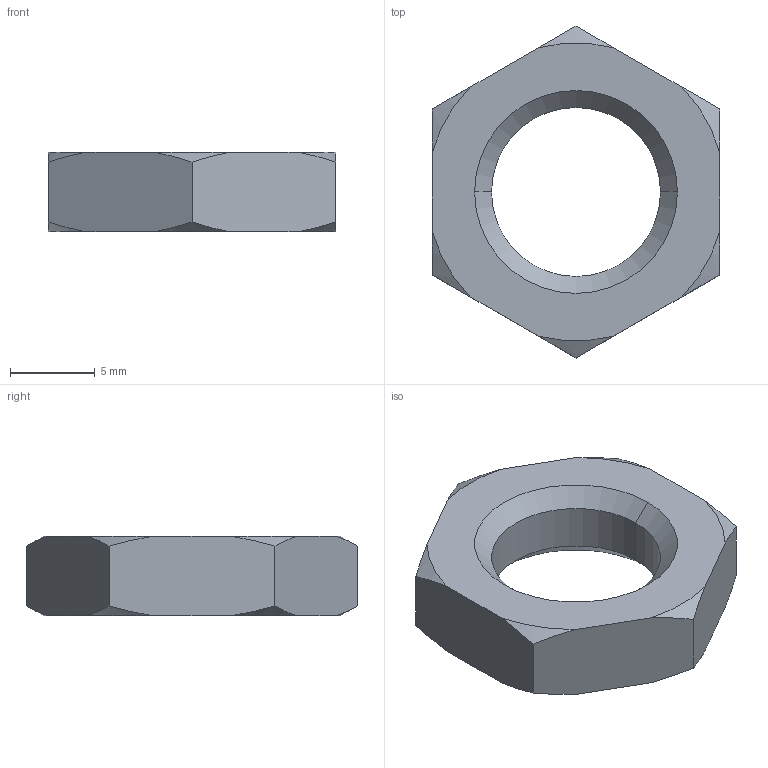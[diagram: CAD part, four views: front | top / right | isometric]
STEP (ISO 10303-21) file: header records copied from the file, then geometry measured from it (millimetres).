
FILE_DESCRIPTION (( 'STEP AP203' ), '1' );
FILE_NAME ('P0306.100-100-A4.step', '2018-12-15T15:00:15', ( '' ), ( '' ), 'SwSTEP 2.0', 'SolidWorks 2017', '' );
FILE_SCHEMA (( 'CONFIG_CONTROL_DESIGN' ));
Length unit declared in the file: millimetre
Products named in the file (1): P0306.100-100-A4
Bounding box: 17 x 19.63 x 4.7 mm (x, y, z)
Volume: 769.2 mm3; surface area: 721.4 mm2
Topology: 1 solids, 1 shells, 26 faces, 68 edges, 44 vertices
Faces by surface type: cone 16, plane 8, cylinder 2
Entity records: 937 total; most frequent: CARTESIAN_POINT 243, ORIENTED_EDGE 136, DIRECTION 118, EDGE_CURVE 68, AXIS2_PLACEMENT_3D 47, VERTEX_POINT 44, EDGE_LOOP 28, FACE_OUTER_BOUND 26
